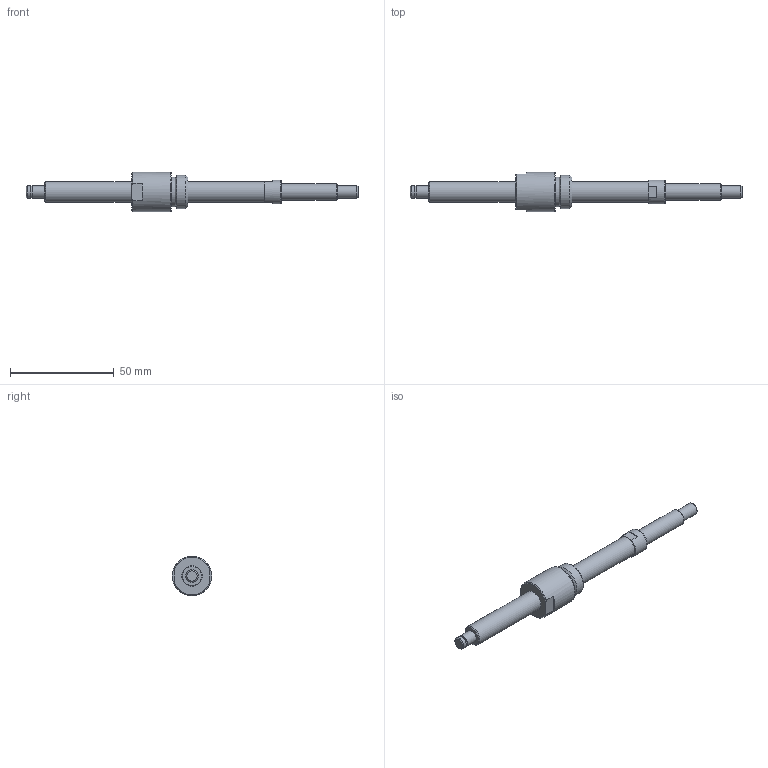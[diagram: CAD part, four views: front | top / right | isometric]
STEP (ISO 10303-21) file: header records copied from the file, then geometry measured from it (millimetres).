
FILE_DESCRIPTION(/* description */ ('STEP AP214'),/* implementation_level */ '2;1');
FILE_NAME(/* name */ 'NSG1002-102R160C5B0X(42)',/* time_stamp */ '2026-08-20T15:48:50+02:00',/* author */ ('License CC BY-ND 4.0'),/* organization */ ('CADENAS'),/* preprocessor_version */ 'ST-DEVELOPER v20',/* originating_system */ 'PARTsolutions',/* authorisation */ ' ');
FILE_SCHEMA (('AUTOMOTIVE_DESIGN {1 0 10303 214 3 1 1}'));
Length unit declared in the file: millimetre
Products named in the file (3): NSG1002-102R160C5B0X(42); NSG1002-102R160C3B_shaft; NSG1002_nut
Assembly tree (2 placements, depth 2):
  NSG1002-102R160C5B0X(42)
    NSG1002-102R160C3B_shaft
    NSG1002_nut
Bounding box: 160 x 19 x 19 mm (x, y, z)
Volume: 15714 mm3; surface area: 7610.4 mm2
Topology: 2 solids, 2 shells, 42 faces, 83 edges, 51 vertices
Faces by surface type: plane 20, cylinder 11, cone 10, torus 1
Full cylindrical faces by diameter (mm): 5.7 x1, 6 x3, 8 x1, 10 x2, 11.5 x1, 14.4 x1, 16 x1, 19 x1
Entity records: 1047 total; most frequent: DIRECTION 186, CARTESIAN_POINT 167, ORIENTED_EDGE 122, AXIS2_PLACEMENT_3D 84, EDGE_LOOP 70, FACE_BOUND 70, EDGE_CURVE 61, VERTEX_POINT 49
